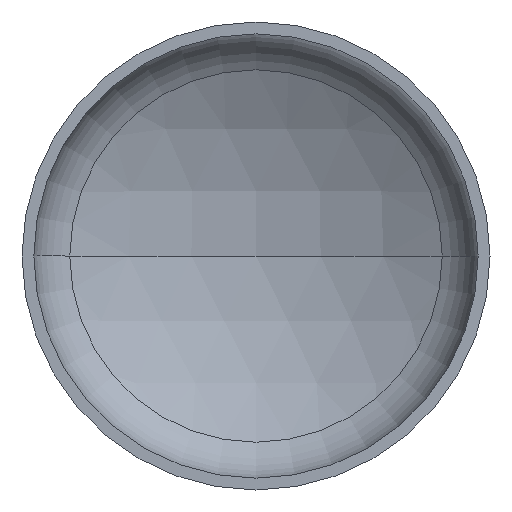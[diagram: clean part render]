
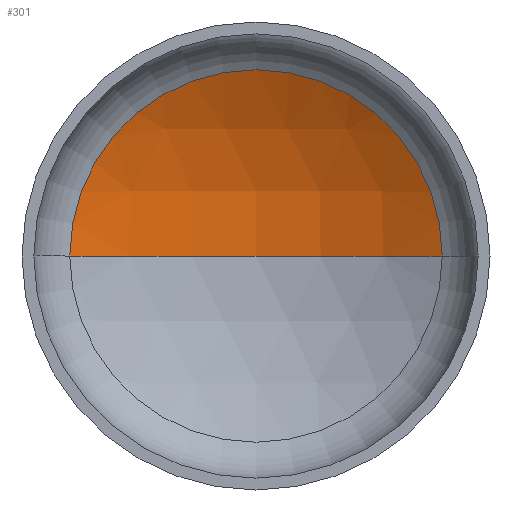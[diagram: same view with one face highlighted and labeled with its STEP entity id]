
A CAD part, front view. The second image highlights one B-rep face of the part: STEP entity #301.
In plain terms, the highlighted spherical face has radius 1360 mm.
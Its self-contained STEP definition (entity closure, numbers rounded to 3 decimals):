
#12 = EDGE_LOOP ( 'NONE', ( #132, #122, #59 ) ) ;
#14 = VERTEX_POINT ( 'NONE', #300 ) ;
#19 = AXIS2_PLACEMENT_3D ( 'NONE', #161, #151, #186 ) ;
#37 = AXIS2_PLACEMENT_3D ( 'NONE', #288, #127, #398 ) ;
#39 = AXIS2_PLACEMENT_3D ( 'NONE', #169, #332, #196 ) ;
#40 = AXIS2_PLACEMENT_3D ( 'NONE', #231, #232, #212 ) ;
#59 = ORIENTED_EDGE ( 'NONE', *, *, #92, .T. ) ;
#60 = VERTEX_POINT ( 'NONE', #275 ) ;
#92 = EDGE_CURVE ( 'NONE', #273, #60, #255, .T. ) ;
#93 = EDGE_CURVE ( 'NONE', #14, #273, #184, .T. ) ;
#104 = EDGE_CURVE ( 'NONE', #14, #60, #244, .T. ) ;
#122 = ORIENTED_EDGE ( 'NONE', *, *, #93, .T. ) ;
#127 = DIRECTION ( 'NONE',  ( 0., 0., 1. ) ) ;
#132 = ORIENTED_EDGE ( 'NONE', *, *, #104, .F. ) ;
#143 = FACE_OUTER_BOUND ( 'NONE', #12, .T. ) ;
#151 = DIRECTION ( 'NONE',  ( 0., 0., -1. ) ) ;
#161 = CARTESIAN_POINT ( 'NONE',  ( 0., -824.354, 0. ) ) ;
#169 = CARTESIAN_POINT ( 'NONE',  ( 0., -824.354, 0. ) ) ;
#184 = CIRCLE ( 'NONE', #39, 1360. ) ;
#186 = DIRECTION ( 'NONE',  ( -1., 0., 0. ) ) ;
#196 = DIRECTION ( 'NONE',  ( -1., 0., 0. ) ) ;
#212 = DIRECTION ( 'NONE',  ( 1., 0., 0. ) ) ;
#231 = CARTESIAN_POINT ( 'NONE',  ( 0., 355.575, 0. ) ) ;
#232 = DIRECTION ( 'NONE',  ( 0., -1., 0. ) ) ;
#244 = CIRCLE ( 'NONE', #37, 1360. ) ;
#255 = CIRCLE ( 'NONE', #40, 676.291 ) ;
#273 = VERTEX_POINT ( 'NONE', #407 ) ;
#275 = CARTESIAN_POINT ( 'NONE',  ( -676.291, 355.575, 0. ) ) ;
#288 = CARTESIAN_POINT ( 'NONE',  ( 0., -824.354, 0. ) ) ;
#300 = CARTESIAN_POINT ( 'NONE',  ( 0., 535.646, 0. ) ) ;
#301 = ADVANCED_FACE ( 'NONE', ( #143 ), #390, .F. ) ;
#332 = DIRECTION ( 'NONE',  ( 0., 0., -1. ) ) ;
#390 = SPHERICAL_SURFACE ( 'NONE', #19, 1360. ) ;
#398 = DIRECTION ( 'NONE',  ( 1., 0., 0. ) ) ;
#407 = CARTESIAN_POINT ( 'NONE',  ( 676.291, 355.575, 0. ) ) ;
